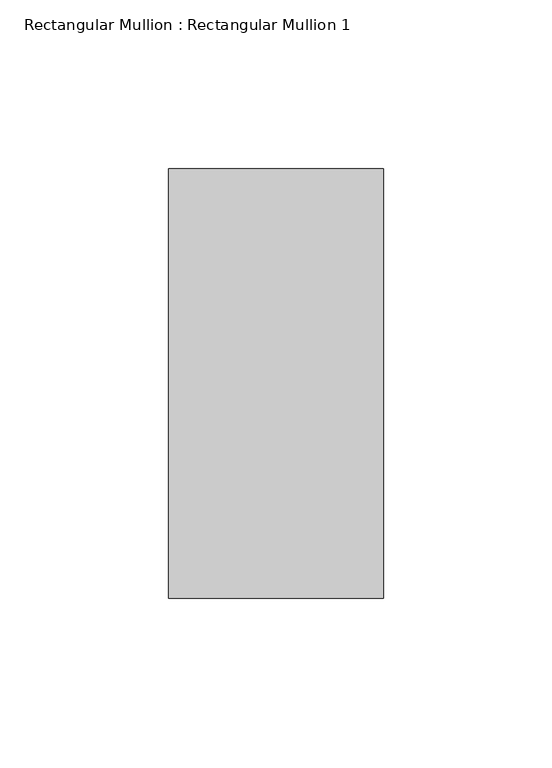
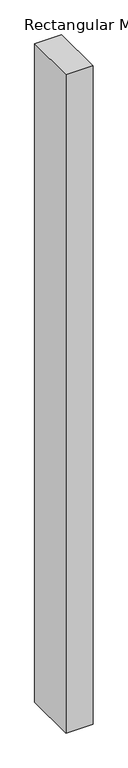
"""IFC4 building model written with IfcOpenShell, lengths in millimetres: member geometry, Rectangular Mullion : Rectangular Mullion 1."""

import ifcopenshell
import ifcopenshell.guid

model = None  # the IFC model being written
_history = None  # IfcOwnerHistory: only IFC2X3 demands one
_inside = {}  # id of a spatial element -> (the spatial element, [elements in it])
_under = {}  # id of a project, library or spatial element -> (it, [spatial elements below it])
_declared = {}  # id of a project -> (the project, [libraries it declares])
_typed = {}  # id of a type object -> (the type object, [elements of that type])
_made_of = {}  # id of a material, layer set ... -> (it, [elements and type objects made of it])


def new_model(schema):
    """Start an empty IFC model of exactly this schema.

    Asked for "IFC4X3", IfcOpenShell would pick the latest addendum, in which some entities
    have other attributes; the version numbers below select the first issue.
    IFC2X3 requires an IfcOwnerHistory on every rooted entity: one is made here for all.
    """
    global model, _history
    if schema == "IFC4X3":
        model = ifcopenshell.file(schema_version=(4, 3, 0, 0))
    else:
        model = ifcopenshell.file(schema=schema)
    _inside.clear()
    _under.clear()
    _declared.clear()
    _typed.clear()
    _made_of.clear()
    _history = None
    if model.schema == "IFC2X3":
        org = make("IfcOrganization", Name="unknown")
        user = make(
            "IfcPersonAndOrganization",
            ThePerson=make("IfcPerson", FamilyName="unknown"),
            TheOrganization=org,
        )
        app = make(
            "IfcApplication",
            ApplicationDeveloper=org,
            Version="unknown",
            ApplicationFullName="unknown",
            ApplicationIdentifier="unknown",
        )
        _history = make(
            "IfcOwnerHistory",
            OwningUser=user,
            OwningApplication=app,
            ChangeAction="ADDED",
            CreationDate=0,
        )
    return model


def make(cls, **values):
    """One entity of the class cls with the attributes given. An attribute that is None is left unset."""
    return model.create_entity(
        cls, **{name: value for name, value in values.items() if value is not None}
    )


def rooted(cls, **values):
    """An entity with a GlobalId (a new one), such as an element, a storey or a relation."""
    return make(cls, GlobalId=ifcopenshell.guid.new(), OwnerHistory=_history, **values)


def si_unit(unit_type, name, prefix=None):
    """IfcSIUnit, for example si_unit("LENGTHUNIT", "METRE", prefix="MILLI")."""
    return make("IfcSIUnit", UnitType=unit_type, Prefix=prefix, Name=name)


def assignment(units):
    """IfcUnitAssignment: the units of a project."""
    return None if units is None else make("IfcUnitAssignment", Units=units)


def point(xyz):
    """IfcCartesianPoint."""
    return None if xyz is None else make("IfcCartesianPoint", Coordinates=xyz)


def direction(xyz):
    """IfcDirection."""
    return None if xyz is None else make("IfcDirection", DirectionRatios=xyz)


def frame(location, z_axis=None, x_axis=None):
    """IfcAxis2Placement3D, a coordinate frame: its origin and axes. An axis left out is left unset."""
    return make(
        "IfcAxis2Placement3D",
        Location=point(location),
        Axis=direction(z_axis),
        RefDirection=direction(x_axis),
    )


def origin():
    """The frame at (0, 0, 0) with its axes left unset."""
    return frame((0.0, 0.0, 0.0))


def place(relative_to, where):
    """IfcLocalPlacement: puts the frame where relative to a parent placement (None: the world)."""
    return make(
        "IfcLocalPlacement", PlacementRelTo=relative_to, RelativePlacement=where
    )


def context(
    kind, dimensions, precision=None, world=None, true_north=None, identifier=None
):
    """IfcGeometricRepresentationContext, for example the 3D "Model" context."""
    return make(
        "IfcGeometricRepresentationContext",
        ContextIdentifier=identifier,
        ContextType=kind,
        CoordinateSpaceDimension=dimensions,
        Precision=precision,
        WorldCoordinateSystem=world,
        TrueNorth=true_north,
    )


def project(units=None, contexts=None):
    """IfcProject with its units and contexts."""
    return rooted(
        "IfcProject",
        Name="project",
        RepresentationContexts=contexts,
        UnitsInContext=assignment(units),
    )


def spatial(cls, under=None, at=None, **own):
    """A site, building, storey or space (cls), placed at a placement, below another one or the project."""
    s = rooted(cls, ObjectPlacement=at, **own)
    if under is not None:
        _under.setdefault(under.id(), (under, []))[1].append(s)
    return s


def polyline(points):
    """IfcPolyline through the points."""
    return make("IfcPolyline", Points=[point(p) for p in points])


def outline(outer, holes=None, kind="AREA"):
    """IfcArbitraryClosedProfileDef: a profile drawn as a closed curve; with holes, ...WithVoids."""
    if holes is None:
        return make("IfcArbitraryClosedProfileDef", ProfileType=kind, OuterCurve=outer)
    return make(
        "IfcArbitraryProfileDefWithVoids",
        ProfileType=kind,
        OuterCurve=outer,
        InnerCurves=holes,
    )


def extrude(swept, where, along, depth):
    """IfcExtrudedAreaSolid: the profile swept, set in the frame where, extruded along a direction by depth."""
    return make(
        "IfcExtrudedAreaSolid",
        SweptArea=swept,
        Position=where,
        ExtrudedDirection=direction(along),
        Depth=depth,
    )


def shape(context_of_items, identifier, shape_type, items):
    """IfcShapeRepresentation: the items that make up one representation, for example the "Body"."""
    return make(
        "IfcShapeRepresentation",
        ContextOfItems=context_of_items,
        RepresentationIdentifier=identifier,
        RepresentationType=shape_type,
        Items=items,
    )


def source(mapping_origin, context_of_items, identifier, shape_type, items):
    """IfcRepresentationMap: a shape defined once, which mapped items show again and again."""
    return make(
        "IfcRepresentationMap",
        MappingOrigin=mapping_origin,
        MappedRepresentation=shape(context_of_items, identifier, shape_type, items),
    )


def transform(
    local_origin,
    x_axis=None,
    y_axis=None,
    z_axis=None,
    scale=None,
    scale2=None,
    scale3=None,
    uniform=True,
):
    """IfcCartesianTransformationOperator3D, or its non-uniform kind. x_axis, y_axis, z_axis: its Axis1, 2, 3."""
    if uniform:
        return make(
            "IfcCartesianTransformationOperator3D",
            Axis1=direction(x_axis),
            Axis2=direction(y_axis),
            LocalOrigin=point(local_origin),
            Scale=scale,
            Axis3=direction(z_axis),
        )
    return make(
        "IfcCartesianTransformationOperator3DnonUniform",
        Axis1=direction(x_axis),
        Axis2=direction(y_axis),
        LocalOrigin=point(local_origin),
        Scale=scale,
        Axis3=direction(z_axis),
        Scale2=scale2,
        Scale3=scale3,
    )


def mapped(mapping_source, mapping_target):
    """IfcMappedItem: shows the shape of a source again, moved by a transform."""
    return make(
        "IfcMappedItem", MappingSource=mapping_source, MappingTarget=mapping_target
    )


def made_of(thing, what):
    """Note that an element or type object is made of a material, layer set ...; save() writes the relation."""
    if what is not None:
        _made_of.setdefault(what.id(), (what, []))[1].append(thing)
    return thing


def element(
    cls,
    number,
    at=None,
    inside=None,
    cuts=None,
    type_object=None,
    material=None,
    context=None,
    identifier="Body",
    shape_type=None,
    held_by="IfcProductDefinitionShape",
    body=None,
    shapes=None,
    **own,
):
    """One element of the class cls, such as IfcWall. Its Tag is "e" and its number.

    at: its placement. inside: the storey or other place that contains it. cuts: it is an
    opening in that element (IfcRelVoidsElement). A single representation is given by context,
    identifier, shape_type and body (its items); several are given by shapes. held_by: the class
    of the entity that holds the representations. save() writes the other relations.
    """
    e = rooted(cls, Tag="e%d" % number, ObjectPlacement=at, **own)
    if body is not None:
        shapes = [shape(context, identifier, shape_type, body)]
    if shapes is not None:
        e.Representation = make(held_by, Representations=shapes)
    if inside is not None:
        _inside.setdefault(inside.id(), (inside, []))[1].append(e)
    if cuts is not None:
        rooted(
            "IfcRelVoidsElement", RelatingBuildingElement=cuts, RelatedOpeningElement=e
        )
    if type_object is not None:
        _typed.setdefault(type_object.id(), (type_object, []))[1].append(e)
    return made_of(e, material)


def aggregate(whole, parts):
    """IfcRelAggregates: a whole, such as a stair, and the parts it consists of."""
    return rooted("IfcRelAggregates", RelatingObject=whole, RelatedObjects=parts)


def save(model, path):
    """Write the relations noted so far, then the file.

    IfcRelAggregates (storeys below a building ...), IfcRelContainedInSpatialStructure (elements
    in a storey), IfcRelDefinesByType, IfcRelAssociatesMaterial and IfcRelDeclares: one each for
    every whole, place, type object, material and project.
    """
    for whole, parts in _under.values():
        aggregate(whole, parts)
    for where, things in _inside.values():
        rooted(
            "IfcRelContainedInSpatialStructure",
            RelatedElements=things,
            RelatingStructure=where,
        )
    for kind, things in _typed.values():
        rooted("IfcRelDefinesByType", RelatedObjects=things, RelatingType=kind)
    for what, things in _made_of.values():
        rooted("IfcRelAssociatesMaterial", RelatedObjects=things, RelatingMaterial=what)
    for by, libraries in _declared.values():
        rooted("IfcRelDeclares", RelatingContext=by, RelatedDefinitions=libraries)
    model.write(path)


def rectangular_mullion_rectangular_mullion_1_7a1af1f4(model_context):
    return source(origin(), model_context, "Body", "SweptSolid", [
        extrude(outline(polyline([(0.0, 63.5), (0.0, -63.5), (-63.5, -63.5), (-63.5, 63.5), (0.0, 63.5)])), frame((0.0, 0.0, -1632.3526094), z_axis=(0.0, 0.0, 1.0), x_axis=(1.0, 0.0, 0.0)), (0.0, 0.0, 1.0), 1632.3526094),
    ])


if __name__ == "__main__":
    model = new_model("IFC4")
    model_context = context("Model", 3, world=origin())
    ifc_project = project(units=[si_unit("LENGTHUNIT", "METRE", prefix="MILLI")], contexts=[model_context])
    site = spatial("IfcSite", under=ifc_project)
    building = spatial("IfcBuilding", under=site)
    placement = place(None, origin())
    rectangular_mullion_rectangular_mullion_1_shape = rectangular_mullion_rectangular_mullion_1_7a1af1f4(model_context)
    element("IfcMember", 1, ObjectType="Rectangular Mullion : Rectangular Mullion 1", at=placement, inside=building, context=model_context, shape_type="MappedRepresentation", body=[
        mapped(rectangular_mullion_rectangular_mullion_1_shape, transform((0.0, 0.0, 0.0), x_axis=(1.0, 0.0, 0.0), y_axis=(0.0, 1.0, 0.0), z_axis=(0.0, 0.0, 1.0))),
    ])
    save(model, "model.ifc")
